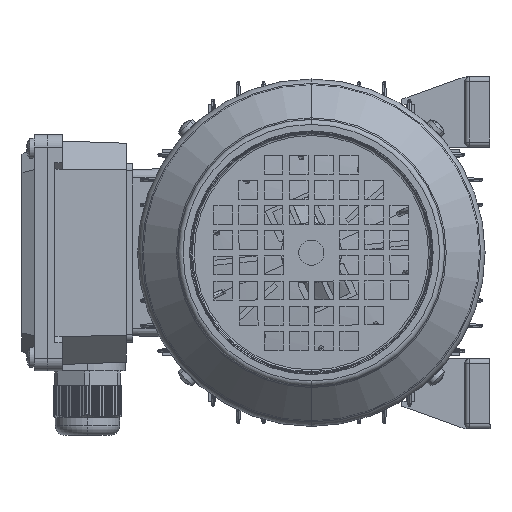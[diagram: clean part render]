
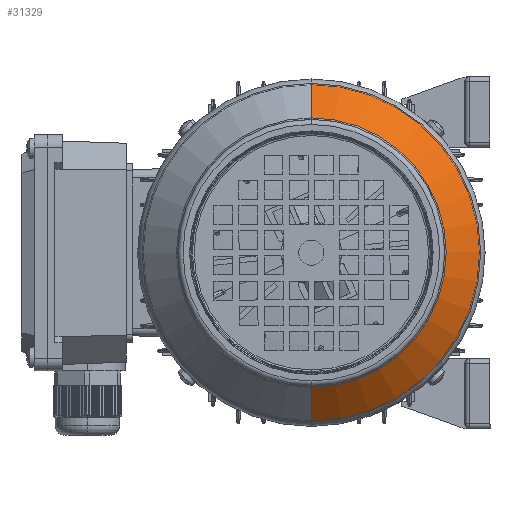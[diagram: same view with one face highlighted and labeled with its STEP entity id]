
A CAD part, left-side view. The second image highlights one B-rep face of the part: STEP entity #31329.
In plain terms, the highlighted conical face has half-angle 45 degrees and reference radius 53.586 mm.
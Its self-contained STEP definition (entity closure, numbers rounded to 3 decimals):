
#4342 = FACE_OUTER_BOUND ( 'NONE', #77900, .T. ) ;
#6625 = EDGE_CURVE ( 'NONE', #98082, #71984, #42237, .T. ) ;
#7502 = DIRECTION ( 'NONE',  ( -1., 0., 0. ) ) ;
#7509 = CARTESIAN_POINT ( 'NONE',  ( 110.707, 0., 67.293 ) ) ;
#10021 = CIRCLE ( 'NONE', #82793, 67.293 ) ;
#10090 = CARTESIAN_POINT ( 'NONE',  ( 124.414, 0., 0. ) ) ;
#10486 = DIRECTION ( 'NONE',  ( -1., 0., 0. ) ) ;
#10549 = VECTOR ( 'NONE', #14214, 1000. ) ;
#13570 = CARTESIAN_POINT ( 'NONE',  ( 124.414, 0., 53.586 ) ) ;
#14214 = DIRECTION ( 'NONE',  ( -0.707, 0., -0.707 ) ) ;
#16052 = AXIS2_PLACEMENT_3D ( 'NONE', #21506, #7502, #130333 ) ;
#18284 = CARTESIAN_POINT ( 'NONE',  ( 110.707, 0., -67.293 ) ) ;
#21506 = CARTESIAN_POINT ( 'NONE',  ( 124.414, 0., 0. ) ) ;
#28241 = CARTESIAN_POINT ( 'NONE',  ( 124.414, 0., -53.586 ) ) ;
#31329 = ADVANCED_FACE ( 'NONE', ( #4342 ), #48220, .T. ) ;
#33270 = DIRECTION ( 'NONE',  ( -0.707, 0., 0.707 ) ) ;
#38526 = CARTESIAN_POINT ( 'NONE',  ( 110.707, 0., 0. ) ) ;
#42237 = LINE ( 'NONE', #28241, #10549 ) ;
#44416 = VERTEX_POINT ( 'NONE', #7509 ) ;
#47292 = CARTESIAN_POINT ( 'NONE',  ( 124.414, 0., 53.586 ) ) ;
#48220 = CONICAL_SURFACE ( 'NONE', #57283, 53.586, 0.785 ) ;
#50146 = ORIENTED_EDGE ( 'NONE', *, *, #6625, .F. ) ;
#53988 = CIRCLE ( 'NONE', #16052, 53.586 ) ;
#57283 = AXIS2_PLACEMENT_3D ( 'NONE', #10090, #132951, #118906 ) ;
#59810 = VERTEX_POINT ( 'NONE', #13570 ) ;
#61314 = LINE ( 'NONE', #47292, #90902 ) ;
#64379 = EDGE_CURVE ( 'NONE', #98082, #59810, #53988, .T. ) ;
#67800 = ORIENTED_EDGE ( 'NONE', *, *, #113788, .F. ) ;
#71984 = VERTEX_POINT ( 'NONE', #18284 ) ;
#74284 = EDGE_CURVE ( 'NONE', #59810, #44416, #61314, .T. ) ;
#77900 = EDGE_LOOP ( 'NONE', ( #50146, #121903, #101675, #67800 ) ) ;
#82793 = AXIS2_PLACEMENT_3D ( 'NONE', #38526, #10486, #133356 ) ;
#87661 = CARTESIAN_POINT ( 'NONE',  ( 124.414, 0., -53.586 ) ) ;
#90902 = VECTOR ( 'NONE', #33270, 1000. ) ;
#98082 = VERTEX_POINT ( 'NONE', #87661 ) ;
#101675 = ORIENTED_EDGE ( 'NONE', *, *, #74284, .T. ) ;
#113788 = EDGE_CURVE ( 'NONE', #71984, #44416, #10021, .T. ) ;
#118906 = DIRECTION ( 'NONE',  ( 0., 0., 1. ) ) ;
#121903 = ORIENTED_EDGE ( 'NONE', *, *, #64379, .T. ) ;
#130333 = DIRECTION ( 'NONE',  ( 0., 0., 1. ) ) ;
#132951 = DIRECTION ( 'NONE',  ( -1., 0., 0. ) ) ;
#133356 = DIRECTION ( 'NONE',  ( 0., 0., 1. ) ) ;
